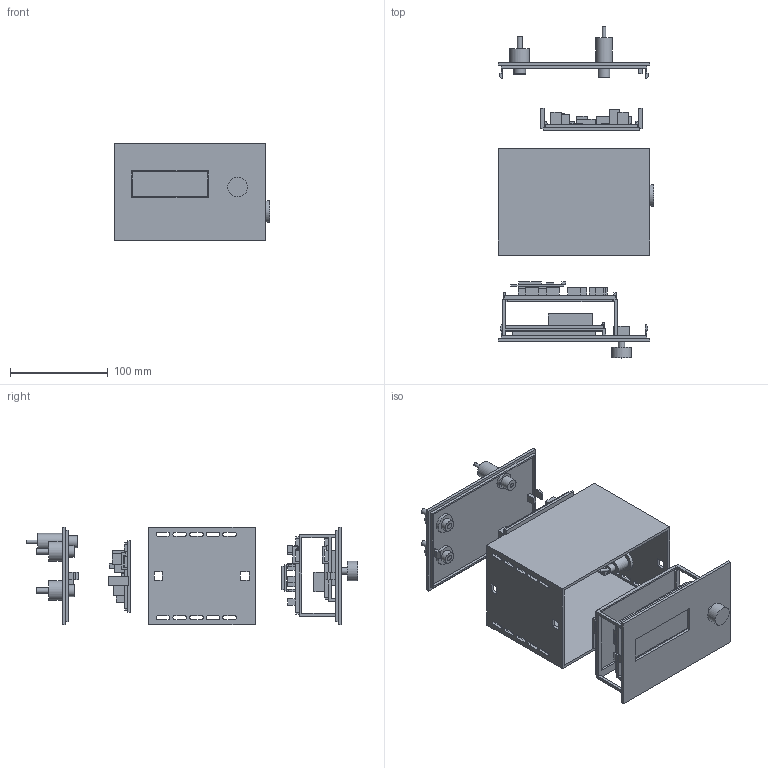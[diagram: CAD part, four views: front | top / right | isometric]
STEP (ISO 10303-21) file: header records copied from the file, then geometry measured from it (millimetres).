
FILE_DESCRIPTION(('Open CASCADE Model'),'2;1');
FILE_NAME('Open CASCADE Shape Model','2026-11-05T23:27:49',('Author'),( 'Open CASCADE'),'Open CASCADE STEP processor 7.8','Open CASCADE 7.8' ,'Unknown');
FILE_SCHEMA(('AUTOMOTIVE_DESIGN { 1 0 10303 214 1 1 1 1 }'));
Length unit declared in the file: millimetre
Products named in the file (99): Exploded_fit_study_07_integrated_buck; 01_Shell_open_front_and_rear; 02_Removable_front_LCD_A; 03_B_removable_carrier; 04_Rear_panel_with_latches; PCB_A; A_C1_ENVELOPE; A_C2_ENVELOPE; A_C3_ENVELOPE; A_D1_ENVELOPE; A_D2_ENVELOPE; A_J1_ENVELOPE; A_J2_ENVELOPE; A_J3_ENVELOPE; A_J4_ENVELOPE; A_J5_ENVELOPE; A_J6_ENVELOPE; A_J7_ENVELOPE; A_JP1_ENVELOPE; A_R1_ENVELOPE; A_R2_ENVELOPE; A_R3_ENVELOPE; A_R4_ENVELOPE; A_R5_ENVELOPE; A_R6_ENVELOPE; A_R7_ENVELOPE; A_U2_ENVELOPE; PCB_B; B_R3_ENVELOPE; B_C3_ENVELOPE; B_L1_ENVELOPE; B_J4_ENVELOPE; B_D9_ENVELOPE; B_R12_ENVELOPE; B_U5_ENVELOPE; B_C5_ENVELOPE; B_R5_ENVELOPE; B_R11_ENVELOPE; B_C2_ENVELOPE; B_C8_ENVELOPE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
Assembly tree (98 placements, depth 2):
  Exploded_fit_study_07_integrated_buck
    01_Shell_open_front_and_rear
    02_Removable_front_LCD_A
    03_B_removable_carrier
    04_Rear_panel_with_latches
    PCB_A
    A_C1_ENVELOPE
    A_C2_ENVELOPE
    A_C3_ENVELOPE
    A_D1_ENVELOPE
    A_D2_ENVELOPE
    A_J1_ENVELOPE
    A_J2_ENVELOPE
    A_J3_ENVELOPE
    A_J4_ENVELOPE
    A_J5_ENVELOPE
    A_J6_ENVELOPE
    A_J7_ENVELOPE
    A_JP1_ENVELOPE
    A_R1_ENVELOPE
    A_R2_ENVELOPE
    A_R3_ENVELOPE
    A_R4_ENVELOPE
    A_R5_ENVELOPE
    A_R6_ENVELOPE
    A_R7_ENVELOPE
    A_U2_ENVELOPE
    PCB_B
    B_R3_ENVELOPE
    B_C3_ENVELOPE
    B_L1_ENVELOPE
    B_J4_ENVELOPE
    B_D9_ENVELOPE
    B_R12_ENVELOPE
    B_U5_ENVELOPE
    B_C5_ENVELOPE
    B_R5_ENVELOPE
    B_R11_ENVELOPE
    B_C2_ENVELOPE
    B_C8_ENVELOPE
    B_D4_ENVELOPE
    B_C6_ENVELOPE
    B_R13_ENVELOPE
    B_Q2_ENVELOPE
    B_F1_ENVELOPE
    B_C4_ENVELOPE
    B_D3_ENVELOPE
    B_J3_ENVELOPE
    B_R4_ENVELOPE
    B_Q1_ENVELOPE
    B_C7_ENVELOPE
    B_R2_ENVELOPE
    B_R1_ENVELOPE
    B_U3_ENVELOPE
    B_C10_ENVELOPE
    B_J6_ENVELOPE
    B_U2_ENVELOPE
    B_R7_ENVELOPE
    B_J2_ENVELOPE
    B_J7_ENVELOPE
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Bounding box: 159 x 339 x 100 mm (x, y, z)
Volume: 420059.8 mm3; surface area: 314758.7 mm2
Topology: 98 solids, 98 shells, 1022 faces, 2411 edges, 1604 vertices
Faces by surface type: plane 949, cylinder 73
Full cylindrical faces by diameter (mm): 3 x3, 3.5 x1, 4.3 x1, 5.5 x2, 6.3 x2, 6.4 x1, 7.2 x1, 8 x1, 12 x6, 12.4 x1, 12.5 x2, 15 x2, 16 x1, 17 x2, 20 x5, 22 x2
Entity records: 62801 total; most frequent: CARTESIAN_POINT 10010, DIRECTION 9619, LINE 6925, VECTOR 6925, ORIENTED_EDGE 4822, PCURVE 4822, DEFINITIONAL_REPRESENTATION 4822, EDGE_CURVE 2411
